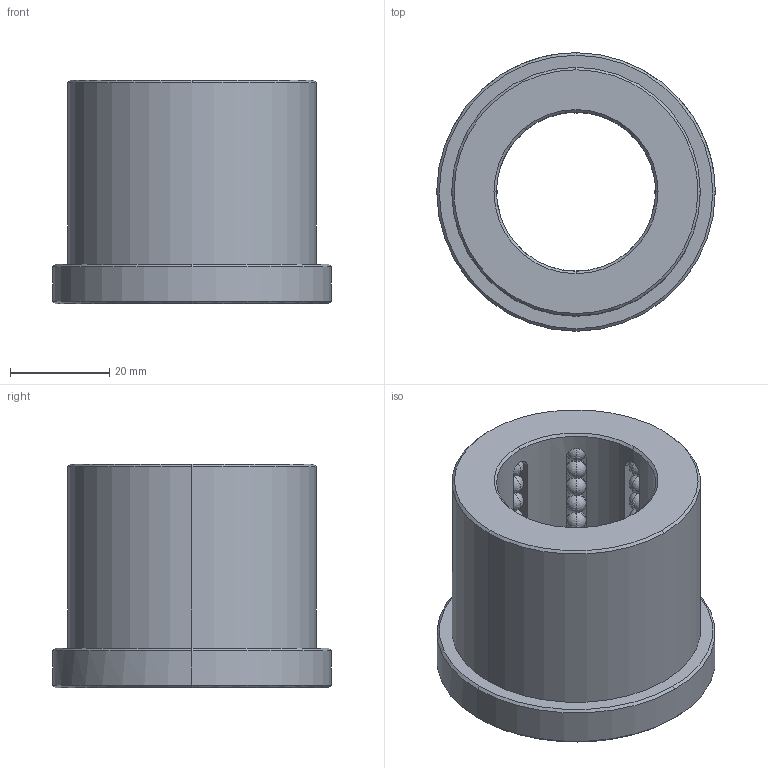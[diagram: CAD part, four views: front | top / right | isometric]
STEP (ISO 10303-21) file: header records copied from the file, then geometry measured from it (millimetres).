
FILE_DESCRIPTION(('CATIA V5 STEP Exchange'),'2;1');
FILE_NAME('C:\Users\Raffaele\Desktop\3D BOLEX\3D FILES CF BOLEX\1-BUSH REF 801\B8013245.stp','2019-06-19T13:46:23+00:00',('none'),('none'),'CATIA Version 5 Release 20 GA (IN-10)','CATIA V5 STEP AP203','none');
FILE_SCHEMA(('CONFIG_CONTROL_DESIGN'));
Length unit declared in the file: millimetre
Products named in the file (1): B8013245
Bounding box: 56 x 56 x 45 mm (x, y, z)
Volume: 53862 mm3; surface area: 21024.6 mm2
Topology: 73 solids, 73 shells, 357 faces, 1034 edges, 254 vertices
Faces by surface type: sphere 288, plane 27, cylinder 22, cone 20
Entity records: 7196 total; most frequent: CARTESIAN_POINT 1570, DIRECTION 1129, ORIENTED_EDGE 916, AXIS2_PLACEMENT_3D 681, EDGE_CURVE 458, EDGE_LOOP 366, ADVANCED_FACE 357, FACE_OUTER_BOUND 357
